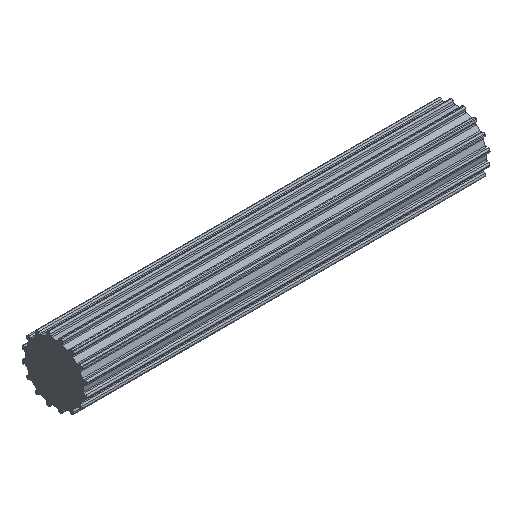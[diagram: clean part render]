
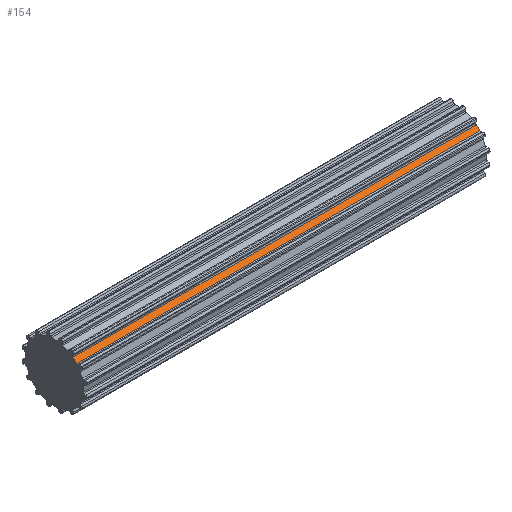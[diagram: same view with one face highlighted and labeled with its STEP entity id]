
A CAD part, isometric view. The second image highlights one B-rep face of the part: STEP entity #154.
In plain terms, the highlighted planar face has unit normal (0, -0.707, 0.707).
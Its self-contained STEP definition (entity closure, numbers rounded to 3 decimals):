
#154 = ADVANCED_FACE( '', ( #431 ), #432, .T. );
#431 = FACE_OUTER_BOUND( '', #828, .T. );
#432 = PLANE( '', #829 );
#828 = EDGE_LOOP( '', ( #1219, #1220, #1221, #1222 ) );
#829 = AXIS2_PLACEMENT_3D( '', #1223, #1224, #1225 );
#1219 = ORIENTED_EDGE( '', *, *, #2507, .F. );
#1220 = ORIENTED_EDGE( '', *, *, #2508, .F. );
#1221 = ORIENTED_EDGE( '', *, *, #2509, .T. );
#1222 = ORIENTED_EDGE( '', *, *, #2510, .T. );
#1223 = CARTESIAN_POINT( '', ( 75., -4.136, 3.451 ) );
#1224 = DIRECTION( '', ( 0., -0.707, 0.707 ) );
#1225 = DIRECTION( '', ( 0., -0.707, -0.707 ) );
#2507 = EDGE_CURVE( '', #3021, #3022, #3023, .T. );
#2508 = EDGE_CURVE( '', #3024, #3021, #3025, .T. );
#2509 = EDGE_CURVE( '', #3024, #3026, #3027, .T. );
#2510 = EDGE_CURVE( '', #3026, #3022, #3028, .T. );
#3021 = VERTEX_POINT( '', #3791 );
#3022 = VERTEX_POINT( '', #3792 );
#3023 = LINE( '', #3793, #3794 );
#3024 = VERTEX_POINT( '', #3795 );
#3025 = LINE( '', #3796, #3797 );
#3026 = VERTEX_POINT( '', #3798 );
#3027 = LINE( '', #3799, #3800 );
#3028 = LINE( '', #3801, #3802 );
#3791 = CARTESIAN_POINT( '', ( 0., -4.136, 3.451 ) );
#3792 = CARTESIAN_POINT( '', ( 0., -3.451, 4.136 ) );
#3793 = CARTESIAN_POINT( '', ( 0., -4.136, 3.451 ) );
#3794 = VECTOR( '', #4784, 1000. );
#3795 = CARTESIAN_POINT( '', ( 75., -4.136, 3.451 ) );
#3796 = CARTESIAN_POINT( '', ( 75., -4.136, 3.451 ) );
#3797 = VECTOR( '', #4785, 1000. );
#3798 = CARTESIAN_POINT( '', ( 75., -3.451, 4.136 ) );
#3799 = CARTESIAN_POINT( '', ( 75., -4.136, 3.451 ) );
#3800 = VECTOR( '', #4786, 1000. );
#3801 = CARTESIAN_POINT( '', ( 75., -3.451, 4.136 ) );
#3802 = VECTOR( '', #4787, 1000. );
#4784 = DIRECTION( '', ( 0., 0.707, 0.707 ) );
#4785 = DIRECTION( '', ( -1., 0., 0. ) );
#4786 = DIRECTION( '', ( 0., 0.707, 0.707 ) );
#4787 = DIRECTION( '', ( -1., 0., 0. ) );
